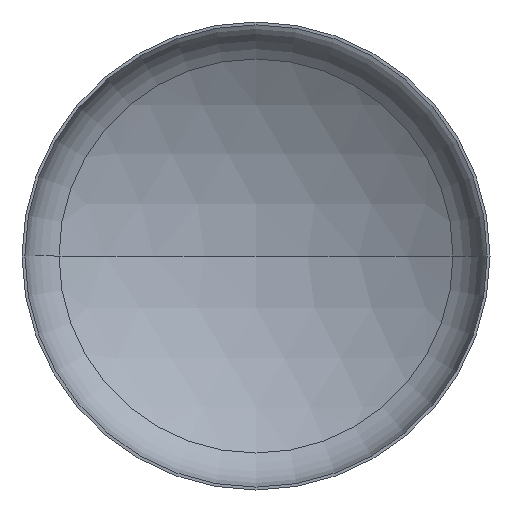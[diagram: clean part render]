
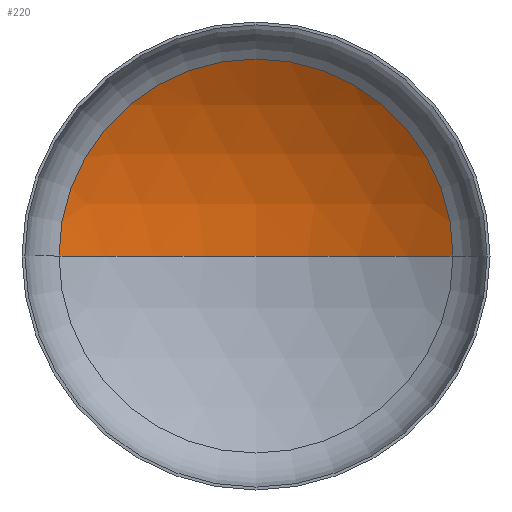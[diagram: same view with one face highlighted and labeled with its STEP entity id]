
A CAD part, front view. The second image highlights one B-rep face of the part: STEP entity #220.
In plain terms, the highlighted spherical face has radius 4400 mm.
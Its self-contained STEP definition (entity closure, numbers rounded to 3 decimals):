
#25 = VERTEX_POINT ( 'NONE', #219 ) ;
#26 = CARTESIAN_POINT ( 'NONE',  ( 0., -2912.811, 0. ) ) ;
#32 = EDGE_LOOP ( 'NONE', ( #350, #62, #195 ) ) ;
#35 = DIRECTION ( 'NONE',  ( 1., 0., 0. ) ) ;
#45 = DIRECTION ( 'NONE',  ( -1., 0., 0. ) ) ;
#52 = EDGE_CURVE ( 'NONE', #295, #74, #403, .T. ) ;
#61 = SPHERICAL_SURFACE ( 'NONE', #111, 4400. ) ;
#62 = ORIENTED_EDGE ( 'NONE', *, *, #83, .T. ) ;
#69 = CARTESIAN_POINT ( 'NONE',  ( -2315.724, 828.502, 0. ) ) ;
#74 = VERTEX_POINT ( 'NONE', #69 ) ;
#83 = EDGE_CURVE ( 'NONE', #295, #25, #165, .T. ) ;
#91 = AXIS2_PLACEMENT_3D ( 'NONE', #166, #138, #35 ) ;
#103 = EDGE_CURVE ( 'NONE', #25, #74, #236, .T. ) ;
#109 = AXIS2_PLACEMENT_3D ( 'NONE', #26, #370, #231 ) ;
#111 = AXIS2_PLACEMENT_3D ( 'NONE', #175, #353, #45 ) ;
#138 = DIRECTION ( 'NONE',  ( 0., 0., 1. ) ) ;
#153 = AXIS2_PLACEMENT_3D ( 'NONE', #264, #385, #288 ) ;
#165 = CIRCLE ( 'NONE', #109, 4400. ) ;
#166 = CARTESIAN_POINT ( 'NONE',  ( 0., -2912.811, 0. ) ) ;
#175 = CARTESIAN_POINT ( 'NONE',  ( 0., -2912.811, 0. ) ) ;
#195 = ORIENTED_EDGE ( 'NONE', *, *, #103, .T. ) ;
#215 = FACE_OUTER_BOUND ( 'NONE', #32, .T. ) ;
#219 = CARTESIAN_POINT ( 'NONE',  ( 2315.724, 828.502, 0. ) ) ;
#220 = ADVANCED_FACE ( 'NONE', ( #215 ), #61, .F. ) ;
#231 = DIRECTION ( 'NONE',  ( -1., 0., 0. ) ) ;
#236 = CIRCLE ( 'NONE', #153, 2315.724 ) ;
#264 = CARTESIAN_POINT ( 'NONE',  ( 0., 828.502, 0. ) ) ;
#288 = DIRECTION ( 'NONE',  ( 1., 0., 0. ) ) ;
#295 = VERTEX_POINT ( 'NONE', #410 ) ;
#350 = ORIENTED_EDGE ( 'NONE', *, *, #52, .F. ) ;
#353 = DIRECTION ( 'NONE',  ( 0., 0., -1. ) ) ;
#370 = DIRECTION ( 'NONE',  ( 0., 0., -1. ) ) ;
#385 = DIRECTION ( 'NONE',  ( 0., -1., 0. ) ) ;
#403 = CIRCLE ( 'NONE', #91, 4400. ) ;
#410 = CARTESIAN_POINT ( 'NONE',  ( 0., 1487.189, 0. ) ) ;
